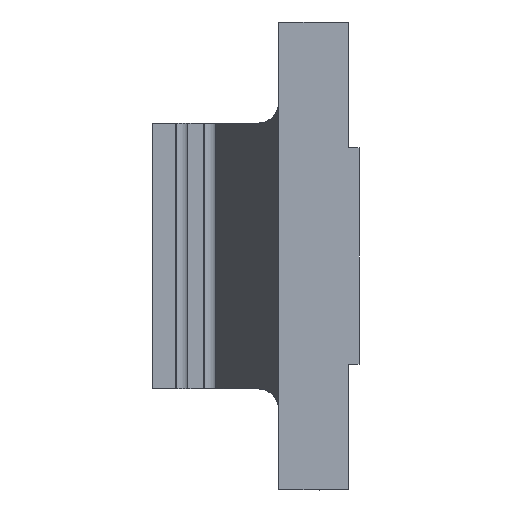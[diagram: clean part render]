
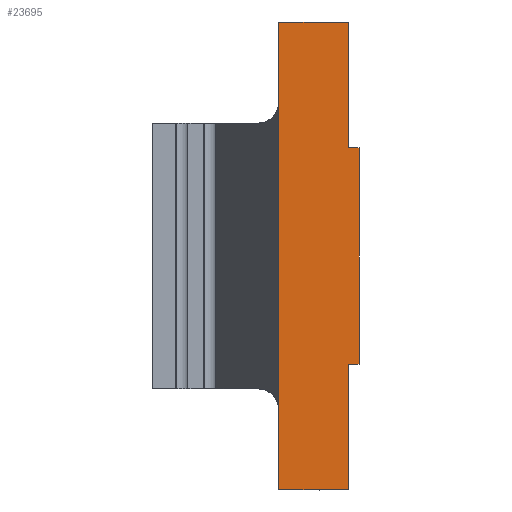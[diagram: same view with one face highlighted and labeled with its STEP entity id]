
A CAD part, left-side view. The second image highlights one B-rep face of the part: STEP entity #23695.
In plain terms, the highlighted planar face has unit normal (-1, 0, 0) as drawn and (1, 0, 0) by its records, which use the part's own axes.
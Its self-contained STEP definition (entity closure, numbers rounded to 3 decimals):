
#121 = LINE ( 'NONE', #11277, #8130 ) ;
#519 = VECTOR ( 'NONE', #7657, 1000. ) ;
#609 = EDGE_CURVE ( 'NONE', #3802, #19507, #15348, .T. ) ;
#888 = PLANE ( 'NONE',  #22474 ) ;
#1124 = CARTESIAN_POINT ( 'NONE',  ( 40., 0., -33.5 ) ) ;
#1189 = CARTESIAN_POINT ( 'NONE',  ( 40., -13., -15.5 ) ) ;
#1584 = CARTESIAN_POINT ( 'NONE',  ( 40., 10., -33.5 ) ) ;
#1653 = DIRECTION ( 'NONE',  ( 0., 0., 1. ) ) ;
#2079 = VECTOR ( 'NONE', #21532, 1000. ) ;
#2340 = CARTESIAN_POINT ( 'NONE',  ( 40., 10., -33.5 ) ) ;
#3375 = ORIENTED_EDGE ( 'NONE', *, *, #21504, .T. ) ;
#3437 = DIRECTION ( 'NONE',  ( 0., 0., 1. ) ) ;
#3802 = VERTEX_POINT ( 'NONE', #21760 ) ;
#3964 = EDGE_CURVE ( 'NONE', #18527, #18595, #20642, .T. ) ;
#4157 = DIRECTION ( 'NONE',  ( 0., 0., 1. ) ) ;
#4625 = DIRECTION ( 'NONE',  ( 0., 0., -1. ) ) ;
#4864 = CARTESIAN_POINT ( 'NONE',  ( 40., 10., 33.5 ) ) ;
#5357 = VERTEX_POINT ( 'NONE', #1124 ) ;
#6382 = ORIENTED_EDGE ( 'NONE', *, *, #22449, .T. ) ;
#7040 = VECTOR ( 'NONE', #19462, 1000. ) ;
#7116 = ORIENTED_EDGE ( 'NONE', *, *, #12780, .T. ) ;
#7117 = CARTESIAN_POINT ( 'NONE',  ( 40., 0., 15.5 ) ) ;
#7448 = CARTESIAN_POINT ( 'NONE',  ( 40., -1.5, -15.5 ) ) ;
#7454 = ORIENTED_EDGE ( 'NONE', *, *, #7814, .T. ) ;
#7657 = DIRECTION ( 'NONE',  ( 0., -1., 0. ) ) ;
#7729 = ORIENTED_EDGE ( 'NONE', *, *, #13793, .T. ) ;
#7814 = EDGE_CURVE ( 'NONE', #13191, #5357, #9931, .T. ) ;
#8059 = CARTESIAN_POINT ( 'NONE',  ( 40., 10., -22. ) ) ;
#8119 = CARTESIAN_POINT ( 'NONE',  ( 40., 0., 0. ) ) ;
#8130 = VECTOR ( 'NONE', #18753, 1000. ) ;
#8291 = LINE ( 'NONE', #1189, #2079 ) ;
#9260 = VERTEX_POINT ( 'NONE', #21041 ) ;
#9473 = ORIENTED_EDGE ( 'NONE', *, *, #3964, .T. ) ;
#9912 = ORIENTED_EDGE ( 'NONE', *, *, #18607, .T. ) ;
#9917 = DIRECTION ( 'NONE',  ( 0., 0., 1. ) ) ;
#9931 = LINE ( 'NONE', #19254, #10786 ) ;
#10786 = VECTOR ( 'NONE', #15594, 1000. ) ;
#11277 = CARTESIAN_POINT ( 'NONE',  ( 40., 28., -33.5 ) ) ;
#11428 = CARTESIAN_POINT ( 'NONE',  ( 40., 0., 33.5 ) ) ;
#11447 = ORIENTED_EDGE ( 'NONE', *, *, #15200, .T. ) ;
#12505 = LINE ( 'NONE', #1584, #23145 ) ;
#12780 = EDGE_CURVE ( 'NONE', #17890, #19239, #20944, .T. ) ;
#12912 = EDGE_CURVE ( 'NONE', #20548, #18595, #13714, .T. ) ;
#13191 = VERTEX_POINT ( 'NONE', #16974 ) ;
#13714 = LINE ( 'NONE', #19567, #20336 ) ;
#13793 = EDGE_CURVE ( 'NONE', #9260, #17890, #12505, .T. ) ;
#14020 = DIRECTION ( 'NONE',  ( 1., 0., 0. ) ) ;
#15200 = EDGE_CURVE ( 'NONE', #20548, #13191, #8291, .T. ) ;
#15348 = LINE ( 'NONE', #2340, #20945 ) ;
#15429 = CARTESIAN_POINT ( 'NONE',  ( 40., 0., 33.5 ) ) ;
#15594 = DIRECTION ( 'NONE',  ( 0., 0., -1. ) ) ;
#16974 = CARTESIAN_POINT ( 'NONE',  ( 40., 0., -15.5 ) ) ;
#16988 = CARTESIAN_POINT ( 'NONE',  ( 40., 0., 15.5 ) ) ;
#17160 = VECTOR ( 'NONE', #1653, 1000. ) ;
#17890 = VERTEX_POINT ( 'NONE', #4864 ) ;
#18331 = ORIENTED_EDGE ( 'NONE', *, *, #609, .T. ) ;
#18457 = CARTESIAN_POINT ( 'NONE',  ( 40., 10., -33.5 ) ) ;
#18466 = ORIENTED_EDGE ( 'NONE', *, *, #12912, .F. ) ;
#18527 = VERTEX_POINT ( 'NONE', #7117 ) ;
#18595 = VERTEX_POINT ( 'NONE', #20816 ) ;
#18607 = EDGE_CURVE ( 'NONE', #19239, #18527, #19449, .T. ) ;
#18753 = DIRECTION ( 'NONE',  ( 0., 1., 0. ) ) ;
#19239 = VERTEX_POINT ( 'NONE', #11428 ) ;
#19254 = CARTESIAN_POINT ( 'NONE',  ( 40., 0., -15.5 ) ) ;
#19449 = LINE ( 'NONE', #15429, #21014 ) ;
#19462 = DIRECTION ( 'NONE',  ( 0., -1., 0. ) ) ;
#19507 = VERTEX_POINT ( 'NONE', #8059 ) ;
#19567 = CARTESIAN_POINT ( 'NONE',  ( 40., -1.5, 20.25 ) ) ;
#19831 = CARTESIAN_POINT ( 'NONE',  ( 40., 0., 33.5 ) ) ;
#20336 = VECTOR ( 'NONE', #4157, 1000. ) ;
#20548 = VERTEX_POINT ( 'NONE', #7448 ) ;
#20642 = LINE ( 'NONE', #16988, #519 ) ;
#20816 = CARTESIAN_POINT ( 'NONE',  ( 40., -1.5, 15.5 ) ) ;
#20944 = LINE ( 'NONE', #19831, #7040 ) ;
#20945 = VECTOR ( 'NONE', #9917, 1000. ) ;
#21014 = VECTOR ( 'NONE', #4625, 1000. ) ;
#21041 = CARTESIAN_POINT ( 'NONE',  ( 40., 10., 22. ) ) ;
#21229 = DIRECTION ( 'NONE',  ( 0., 0., -1. ) ) ;
#21504 = EDGE_CURVE ( 'NONE', #19507, #9260, #24088, .T. ) ;
#21532 = DIRECTION ( 'NONE',  ( 0., 1., 0. ) ) ;
#21760 = CARTESIAN_POINT ( 'NONE',  ( 40., 10., -33.5 ) ) ;
#22449 = EDGE_CURVE ( 'NONE', #5357, #3802, #121, .T. ) ;
#22474 = AXIS2_PLACEMENT_3D ( 'NONE', #8119, #14020, #21229 ) ;
#23145 = VECTOR ( 'NONE', #3437, 1000. ) ;
#23179 = FACE_OUTER_BOUND ( 'NONE', #23983, .T. ) ;
#23695 = ADVANCED_FACE ( 'NONE', ( #23179 ), #888, .T. ) ;
#23983 = EDGE_LOOP ( 'NONE', ( #9473, #18466, #11447, #7454, #6382, #18331, #3375, #7729, #7116, #9912 ) ) ;
#24088 = LINE ( 'NONE', #18457, #17160 ) ;
